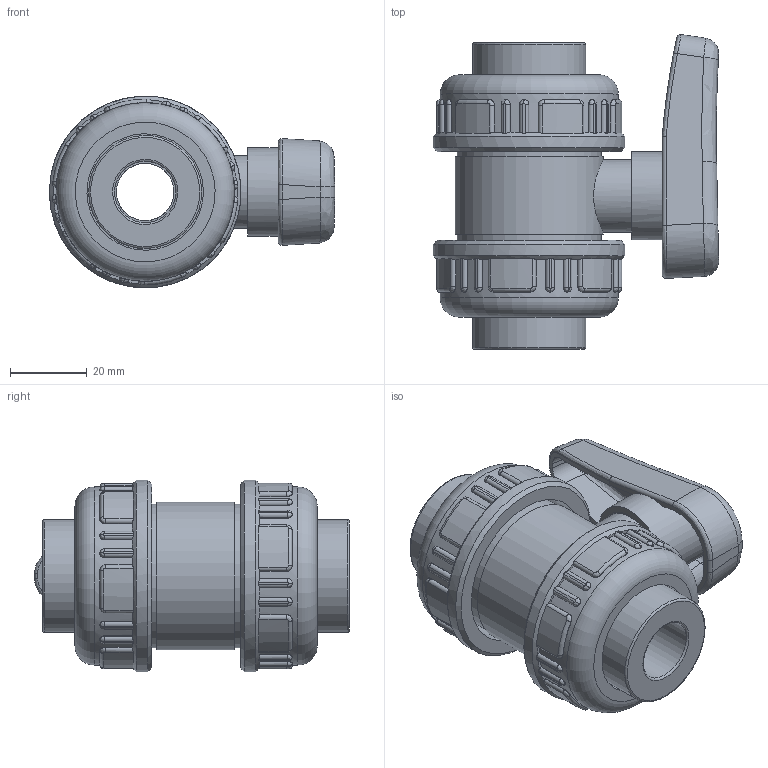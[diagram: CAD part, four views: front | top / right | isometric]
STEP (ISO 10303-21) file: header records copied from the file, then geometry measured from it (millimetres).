
FILE_DESCRIPTION(/* description */ (''),/* implementation_level */ '2;1');
FILE_NAME(/* name */ 'C:\Users\POLYPIPE\Desktop\DATASET INVENTOR\LIBRERIA EFFAST\3D_VALVOLE\3D_VALVOLE A SFERA\3D_BV\3D_BDRBVD\3D_BDRBVD0160.stp',/* time_stamp */ '2018-01-23T15:45:33+01:00',/* author */ ('POLYPIPE'),/* organization */ (''),/* preprocessor_version */ 'ST-DEVELOPER v16.1',/* originating_system */ 'Autodesk Inventor 2016',/* authorisation */ '');
FILE_SCHEMA (('CONFIG_CONTROL_DESIGN'));
Length unit declared in the file: centimetre
Products named in the file (1): 3D_BDRBVD0160
Bounding box: 74.42 x 82.11 x 49.99 mm (x, y, z)
Volume: 98507.4 mm3; surface area: 39804.3 mm2
Topology: 3 solids, 3 shells, 527 faces, 1354 edges, 851 vertices
Faces by surface type: plane 175, cylinder 166, bspline 162, torus 20, cone 4
Full cylindrical faces by diameter (mm): 12 x1, 15 x3, 16 x2, 18.1 x1, 19 x1, 23 x1, 25.6 x1, 28.8 x1, 29.5 x2, 30.4 x2, 35.5 x2, 37.5 x2, 38.6 x1, 40.4 x2, 46.5 x2, 50 x2
Entity records: 60429 total; most frequent: CARTESIAN_POINT 48017, ORIENTED_EDGE 2608, DIRECTION 2195, EDGE_CURVE 1304, AXIS2_PLACEMENT_3D 844, VERTEX_POINT 839, EDGE_LOOP 591, STYLED_ITEM 530
